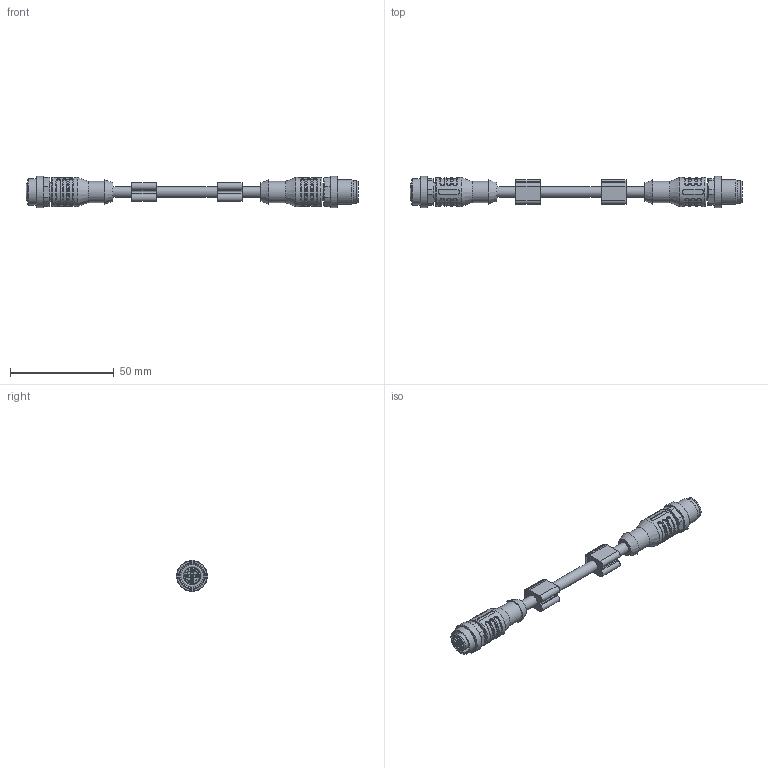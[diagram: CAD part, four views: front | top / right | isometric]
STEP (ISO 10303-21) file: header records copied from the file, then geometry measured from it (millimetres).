
FILE_DESCRIPTION(/* description */ (''),/* implementation_level */ '2;1');
FILE_NAME(/* name */ 'C:\#Vault-WorkDir\Konstruktions-Dokumente\Projekte\Zubehör allgemein\153-13640_L5_L5-xM-PUR.stp',/* time_stamp */ '2019-11-06T11:49:03+01:00',/* author */ ('SensoPart'),/* organization */ ('SensoPart'),/* preprocessor_version */ 'ST-DEVELOPER v17',/* originating_system */ 'Autodesk Inventor 2018',/* authorisation */ '');
FILE_SCHEMA (('AUTOMOTIVE_DESIGN { 1 0 10303 214 3 1 1 }'));
Length unit declared in the file: millimetre
Products named in the file (1): GH-ENG-0030271
Bounding box: 160 x 15 x 15 mm (x, y, z)
Volume: 12994.4 mm3; surface area: 7743.5 mm2
Topology: 1 solids, 1 shells, 583 faces, 1491 edges, 963 vertices
Faces by surface type: plane 200, cylinder 176, bspline 111, torus 63, cone 28, sphere 5
Full cylindrical faces by diameter (mm): 1 x5, 1.15 x5, 2 x1, 5.2 x3, 8.3 x1, 8.7 x2, 10.2 x2, 10.5 x1, 10.8 x1, 10.95 x1, 12 x1, 12.3 x1, 12.8 x1, 14 x2, 15 x2
Entity records: 27337 total; most frequent: CARTESIAN_POINT 12835, ORIENTED_EDGE 2972, DIRECTION 2851, EDGE_CURVE 1486, AXIS2_PLACEMENT_3D 1115, VERTEX_POINT 963, EDGE_LOOP 647, LINE 621
